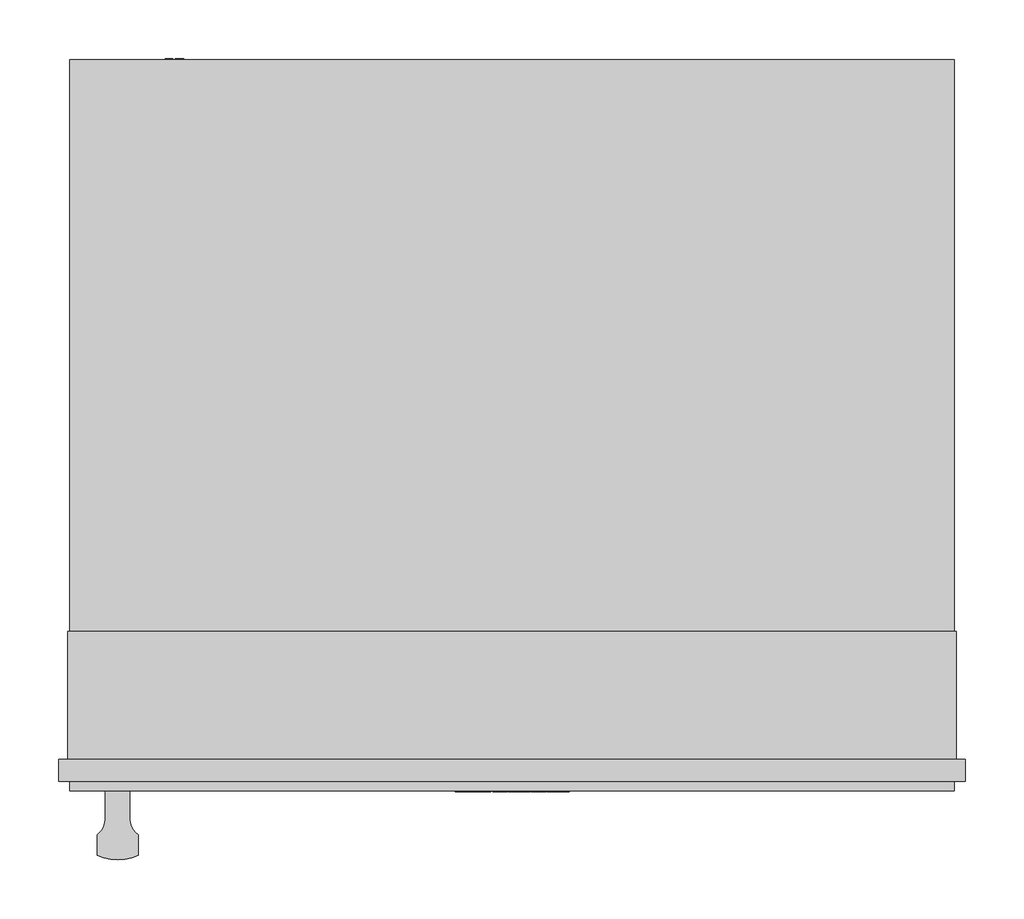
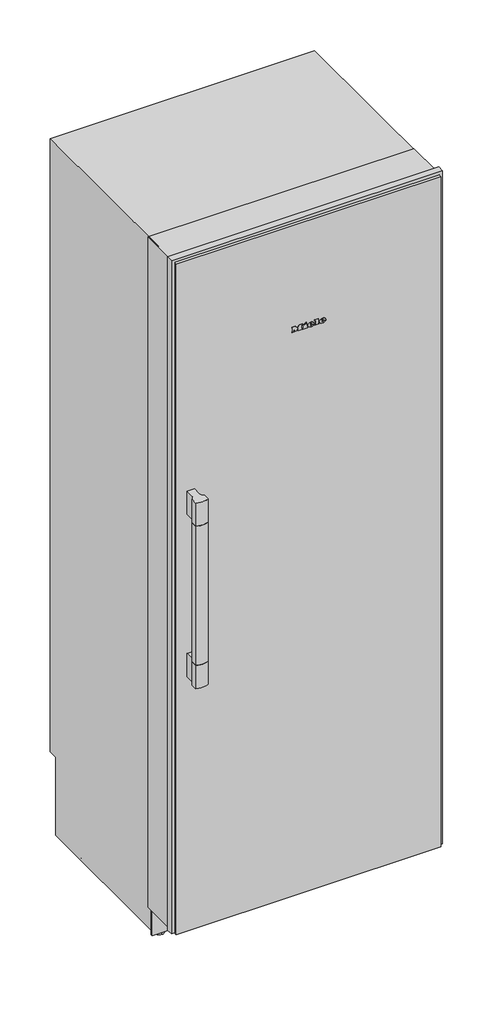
# Not in any storey: 1 proxy.
"""IFC4 building model written with IfcOpenShell, lengths in millimetres."""

from ifc_helpers import new_model, si_unit, origin, place, context, project, spatial, transform, mapped, element, save
from components import specialty_equipment_fa46b359

model = new_model("IFC4")

# Units and contexts
model_context = context("Model", 3, world=origin())
ifc_project = project(units=[si_unit("LENGTHUNIT", "METRE", prefix="MILLI")], contexts=[model_context])

# Site, building
site = spatial("IfcSite", under=ifc_project)
building = spatial("IfcBuilding", under=site)

# Proxy
placement = place(None, origin())
specialty_equipment_shape = specialty_equipment_fa46b359(model_context)
element("IfcBuildingElementProxy", 1, Name="11502700_USA_K2802SF : 36280211_USA_11502700_K2802SF", ObjectType="11502700_USA_K2802SF : 36280211_USA_11502700_K2802SF", at=placement, inside=building, context=model_context, shape_type="MappedRepresentation", body=[
    mapped(specialty_equipment_shape, transform((0.0, 0.0, 0.0), x_axis=(1.0, 0.0, 0.0), y_axis=(0.0, 1.0, 0.0), z_axis=(0.0, 0.0, 1.0))),
])

save(model, "model.ifc")
